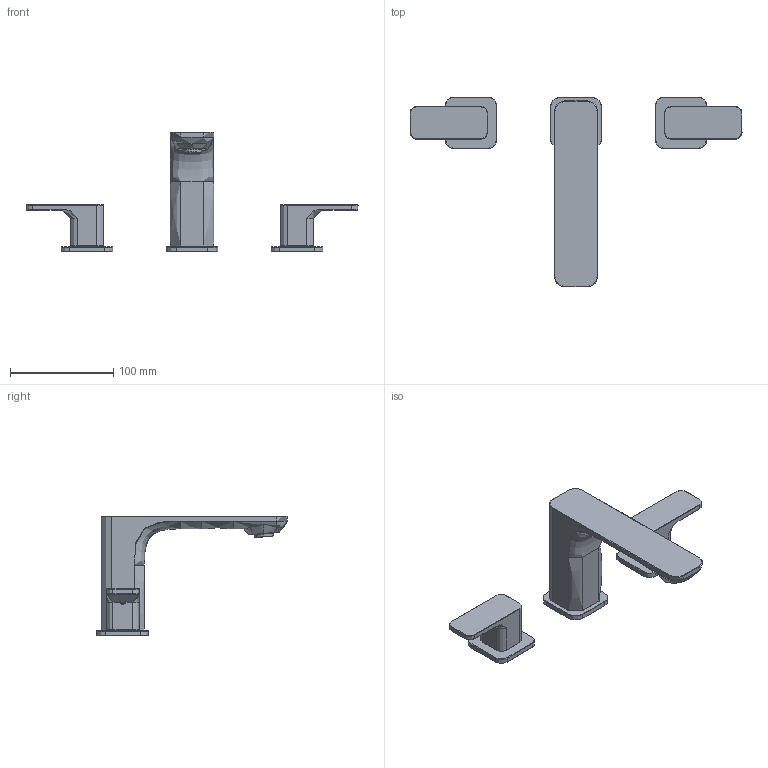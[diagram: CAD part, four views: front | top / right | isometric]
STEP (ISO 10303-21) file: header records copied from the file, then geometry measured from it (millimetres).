
FILE_DESCRIPTION(/* description */ (''),/* implementation_level */ '2;1');
FILE_NAME(/* name */ 'X:\Utilisateurs\Simon\EQ08 3D.stp',/* time_stamp */ '2016-12-20T14:49:07-05:00',/* author */ ('simonb'),/* organization */ (''),/* preprocessor_version */ 'ST-DEVELOPER v15.6',/* originating_system */ 'Autodesk Inventor 2015',/* authorisation */ '');
FILE_SCHEMA (('AUTOMOTIVE_DESIGN { 1 0 10303 214 3 1 1 }'));
Length unit declared in the file: millimetre
Products named in the file (1): EQ08-3D
Bounding box: 321.2 x 184 x 115.95 mm (x, y, z)
Volume: 388041.5 mm3; surface area: 65120.7 mm2
Topology: 3 solids, 3 shells, 243 faces, 592 edges, 364 vertices
Faces by surface type: cylinder 94, torus 56, plane 47, bspline 42, sphere 4
Full cylindrical faces by diameter (mm): 18 x1, 18.846 x1, 28 x2
Entity records: 12467 total; most frequent: CARTESIAN_POINT 6698, ORIENTED_EDGE 1172, DIRECTION 1110, EDGE_CURVE 586, AXIS2_PLACEMENT_3D 459, VERTEX_POINT 364, EDGE_LOOP 258, CIRCLE 257
